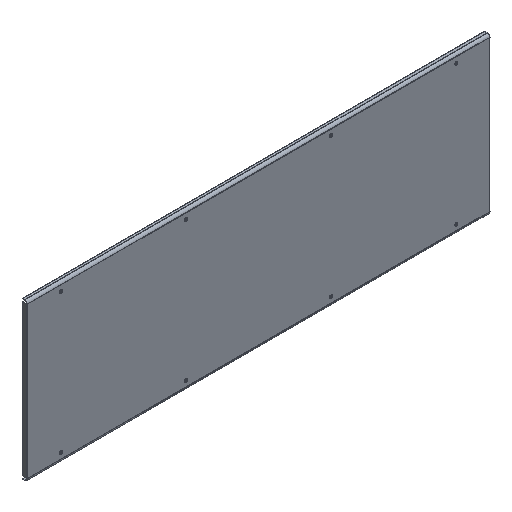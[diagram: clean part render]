
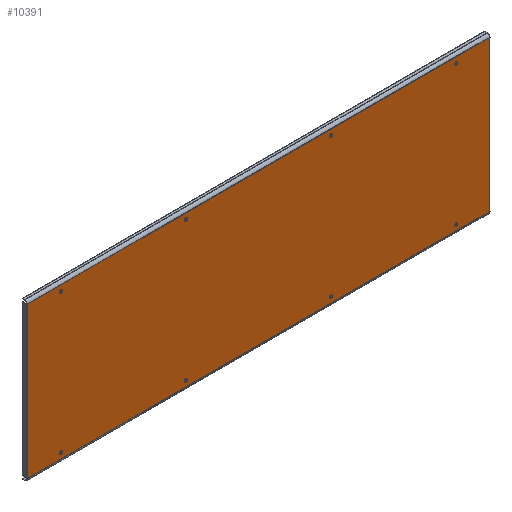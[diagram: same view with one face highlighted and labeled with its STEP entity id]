
A CAD part, isometric view. The second image highlights one B-rep face of the part: STEP entity #10391.
In plain terms, the highlighted planar face has unit normal (0, -1, 0).
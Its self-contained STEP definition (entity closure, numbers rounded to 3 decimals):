
#8466=CARTESIAN_POINT(' ',(275.,-1.5,-270.5));
#8467=VERTEX_POINT(' ',#8466);
#8481=CARTESIAN_POINT(' ',(275.,-1.5,-264.5));
#8486=DIRECTION(' ',(0.,-1.,0.));
#8491=DIRECTION(' ',(0.,0.,-1.));
#8496=AXIS2_PLACEMENT_3D(' ',#8481,#8486,#8491);
#8501=CIRCLE('',#8496,6.);
#8506=CARTESIAN_POINT(' ',(275.,-1.5,-258.5));
#8507=VERTEX_POINT(' ',#8506);
#8511=EDGE_CURVE(' ',#8467,#8507,#8501,.T.);
#9516=CARTESIAN_POINT(' ',(275.,-1.5,-264.5));
#9521=DIRECTION(' ',(0.,-1.,0.));
#9526=DIRECTION(' ',(0.,0.,1.));
#9531=AXIS2_PLACEMENT_3D(' ',#9516,#9521,#9526);
#9536=CIRCLE('',#9531,6.);
#9541=EDGE_CURVE(' ',#8507,#8467,#9536,.T.);
#9566=DIRECTION(' ',(-0.,-1.,0.));
#9571=CARTESIAN_POINT(' ',(-875.25,-1.5,-286.5));
#9576=DIRECTION(' ',(1.,-0.,0.));
#9581=AXIS2_PLACEMENT_3D(' ',#9571,#9566,#9576);
#9586=PLANE('NONE',#9581);
#9591=CARTESIAN_POINT(' ',(875.25,-1.5,-286.5));
#9596=DIRECTION(' ',(0.,0.,1.));
#9601=VECTOR(' ',#9596,1.);
#9606=LINE('',#9591,#9601);
#9611=CARTESIAN_POINT(' ',(875.25,-1.5,-286.5));
#9612=VERTEX_POINT(' ',#9611);
#9616=CARTESIAN_POINT(' ',(875.25,-1.5,286.5));
#9617=VERTEX_POINT(' ',#9616);
#9621=EDGE_CURVE(' ',#9612,#9617,#9606,.T.);
#9626=ORIENTED_EDGE(' ',*,*,#9621,.T.);
#9631=CARTESIAN_POINT(' ',(875.25,-1.5,286.5));
#9636=DIRECTION(' ',(-1.,0.,0.));
#9641=VECTOR(' ',#9636,1.);
#9646=LINE('',#9631,#9641);
#9651=CARTESIAN_POINT(' ',(-875.25,-1.5,286.5));
#9652=VERTEX_POINT(' ',#9651);
#9656=EDGE_CURVE(' ',#9617,#9652,#9646,.T.);
#9661=ORIENTED_EDGE(' ',*,*,#9656,.T.);
#9666=CARTESIAN_POINT(' ',(-875.25,-1.5,286.5));
#9671=DIRECTION(' ',(0.,0.,-1.));
#9676=VECTOR(' ',#9671,1.);
#9681=LINE('',#9666,#9676);
#9686=CARTESIAN_POINT(' ',(-875.25,-1.5,-286.5));
#9687=VERTEX_POINT(' ',#9686);
#9691=EDGE_CURVE(' ',#9652,#9687,#9681,.T.);
#9696=ORIENTED_EDGE(' ',*,*,#9691,.T.);
#9701=CARTESIAN_POINT(' ',(-875.25,-1.5,-286.5));
#9706=DIRECTION(' ',(1.,0.,0.));
#9711=VECTOR(' ',#9706,1.);
#9716=LINE('',#9701,#9711);
#9721=EDGE_CURVE(' ',#9687,#9612,#9716,.T.);
#9726=ORIENTED_EDGE(' ',*,*,#9721,.T.);
#9731=EDGE_LOOP(' ',(#9626,#9661,#9696,#9726));
#9736=FACE_OUTER_BOUND(' ',#9731,.T.);
#9741=ORIENTED_EDGE(' ',*,*,#9541,.F.);
#9746=ORIENTED_EDGE(' ',*,*,#8511,.F.);
#9751=EDGE_LOOP(' ',(#9741,#9746));
#9756=FACE_BOUND(' ',#9751,.T.);
#9761=CARTESIAN_POINT(' ',(750.,-1.5,-264.5));
#9766=DIRECTION(' ',(0.,-1.,0.));
#9771=DIRECTION(' ',(0.,0.,1.));
#9776=AXIS2_PLACEMENT_3D(' ',#9761,#9766,#9771);
#9781=CIRCLE('',#9776,6.);
#9786=CARTESIAN_POINT(' ',(750.,-1.5,-258.5));
#9787=VERTEX_POINT(' ',#9786);
#9791=CARTESIAN_POINT(' ',(750.,-1.5,-270.5));
#9792=VERTEX_POINT(' ',#9791);
#9796=EDGE_CURVE(' ',#9787,#9792,#9781,.T.);
#9801=ORIENTED_EDGE(' ',*,*,#9796,.F.);
#9806=CARTESIAN_POINT(' ',(750.,-1.5,-264.5));
#9811=DIRECTION(' ',(0.,-1.,0.));
#9816=DIRECTION(' ',(0.,0.,-1.));
#9821=AXIS2_PLACEMENT_3D(' ',#9806,#9811,#9816);
#9826=CIRCLE('',#9821,6.);
#9831=EDGE_CURVE(' ',#9792,#9787,#9826,.T.);
#9836=ORIENTED_EDGE(' ',*,*,#9831,.F.);
#9841=EDGE_LOOP(' ',(#9801,#9836));
#9846=FACE_BOUND(' ',#9841,.T.);
#9851=CARTESIAN_POINT(' ',(750.,-1.5,264.5));
#9856=DIRECTION(' ',(0.,1.,0.));
#9861=DIRECTION(' ',(0.,0.,-1.));
#9866=AXIS2_PLACEMENT_3D(' ',#9851,#9856,#9861);
#9871=CIRCLE('',#9866,6.);
#9876=CARTESIAN_POINT(' ',(750.,-1.5,258.5));
#9877=VERTEX_POINT(' ',#9876);
#9881=CARTESIAN_POINT(' ',(750.,-1.5,270.5));
#9882=VERTEX_POINT(' ',#9881);
#9886=EDGE_CURVE(' ',#9877,#9882,#9871,.T.);
#9891=ORIENTED_EDGE(' ',*,*,#9886,.T.);
#9896=CARTESIAN_POINT(' ',(750.,-1.5,264.5));
#9901=DIRECTION(' ',(0.,1.,0.));
#9906=DIRECTION(' ',(0.,0.,1.));
#9911=AXIS2_PLACEMENT_3D(' ',#9896,#9901,#9906);
#9916=CIRCLE('',#9911,6.);
#9921=EDGE_CURVE(' ',#9882,#9877,#9916,.T.);
#9926=ORIENTED_EDGE(' ',*,*,#9921,.T.);
#9931=EDGE_LOOP(' ',(#9891,#9926));
#9936=FACE_BOUND(' ',#9931,.T.);
#9941=CARTESIAN_POINT(' ',(-275.,-1.5,264.5));
#9946=DIRECTION(' ',(0.,-1.,0.));
#9951=DIRECTION(' ',(0.,0.,-1.));
#9956=AXIS2_PLACEMENT_3D(' ',#9941,#9946,#9951);
#9961=CIRCLE('',#9956,6.);
#9966=CARTESIAN_POINT(' ',(-275.,-1.5,258.5));
#9967=VERTEX_POINT(' ',#9966);
#9971=CARTESIAN_POINT(' ',(-275.,-1.5,270.5));
#9972=VERTEX_POINT(' ',#9971);
#9976=EDGE_CURVE(' ',#9967,#9972,#9961,.T.);
#9981=ORIENTED_EDGE(' ',*,*,#9976,.F.);
#9986=CARTESIAN_POINT(' ',(-275.,-1.5,264.5));
#9991=DIRECTION(' ',(0.,-1.,0.));
#9996=DIRECTION(' ',(0.,0.,1.));
#10001=AXIS2_PLACEMENT_3D(' ',#9986,#9991,#9996);
#10006=CIRCLE('',#10001,6.);
#10011=EDGE_CURVE(' ',#9972,#9967,#10006,.T.);
#10016=ORIENTED_EDGE(' ',*,*,#10011,.F.);
#10021=EDGE_LOOP(' ',(#9981,#10016));
#10026=FACE_BOUND(' ',#10021,.T.);
#10031=CARTESIAN_POINT(' ',(-750.,-1.5,264.5));
#10036=DIRECTION(' ',(0.,-1.,0.));
#10041=DIRECTION(' ',(0.,0.,-1.));
#10046=AXIS2_PLACEMENT_3D(' ',#10031,#10036,#10041);
#10051=CIRCLE('',#10046,6.);
#10056=CARTESIAN_POINT(' ',(-750.,-1.5,258.5));
#10057=VERTEX_POINT(' ',#10056);
#10061=CARTESIAN_POINT(' ',(-750.,-1.5,270.5));
#10062=VERTEX_POINT(' ',#10061);
#10066=EDGE_CURVE(' ',#10057,#10062,#10051,.T.);
#10071=ORIENTED_EDGE(' ',*,*,#10066,.F.);
#10076=CARTESIAN_POINT(' ',(-750.,-1.5,264.5));
#10081=DIRECTION(' ',(0.,-1.,0.));
#10086=DIRECTION(' ',(0.,0.,1.));
#10091=AXIS2_PLACEMENT_3D(' ',#10076,#10081,#10086);
#10096=CIRCLE('',#10091,6.);
#10101=EDGE_CURVE(' ',#10062,#10057,#10096,.T.);
#10106=ORIENTED_EDGE(' ',*,*,#10101,.F.);
#10111=EDGE_LOOP(' ',(#10071,#10106));
#10116=FACE_BOUND(' ',#10111,.T.);
#10121=CARTESIAN_POINT(' ',(-750.,-1.5,-264.5));
#10126=DIRECTION(' ',(0.,1.,0.));
#10131=DIRECTION(' ',(0.,0.,1.));
#10136=AXIS2_PLACEMENT_3D(' ',#10121,#10126,#10131);
#10141=CIRCLE('',#10136,6.);
#10146=CARTESIAN_POINT(' ',(-750.,-1.5,-258.5));
#10147=VERTEX_POINT(' ',#10146);
#10151=CARTESIAN_POINT(' ',(-750.,-1.5,-270.5));
#10152=VERTEX_POINT(' ',#10151);
#10156=EDGE_CURVE(' ',#10147,#10152,#10141,.T.);
#10161=ORIENTED_EDGE(' ',*,*,#10156,.T.);
#10166=CARTESIAN_POINT(' ',(-750.,-1.5,-264.5));
#10171=DIRECTION(' ',(0.,1.,0.));
#10176=DIRECTION(' ',(0.,0.,-1.));
#10181=AXIS2_PLACEMENT_3D(' ',#10166,#10171,#10176);
#10186=CIRCLE('',#10181,6.);
#10191=EDGE_CURVE(' ',#10152,#10147,#10186,.T.);
#10196=ORIENTED_EDGE(' ',*,*,#10191,.T.);
#10201=EDGE_LOOP(' ',(#10161,#10196));
#10206=FACE_BOUND(' ',#10201,.T.);
#10211=CARTESIAN_POINT(' ',(275.,-1.5,264.5));
#10216=DIRECTION(' ',(0.,1.,0.));
#10221=DIRECTION(' ',(0.,0.,-1.));
#10226=AXIS2_PLACEMENT_3D(' ',#10211,#10216,#10221);
#10231=CIRCLE('',#10226,6.);
#10236=CARTESIAN_POINT(' ',(275.,-1.5,258.5));
#10237=VERTEX_POINT(' ',#10236);
#10241=CARTESIAN_POINT(' ',(275.,-1.5,270.5));
#10242=VERTEX_POINT(' ',#10241);
#10246=EDGE_CURVE(' ',#10237,#10242,#10231,.T.);
#10251=ORIENTED_EDGE(' ',*,*,#10246,.T.);
#10256=CARTESIAN_POINT(' ',(275.,-1.5,264.5));
#10261=DIRECTION(' ',(0.,1.,0.));
#10266=DIRECTION(' ',(0.,0.,1.));
#10271=AXIS2_PLACEMENT_3D(' ',#10256,#10261,#10266);
#10276=CIRCLE('',#10271,6.);
#10281=EDGE_CURVE(' ',#10242,#10237,#10276,.T.);
#10286=ORIENTED_EDGE(' ',*,*,#10281,.T.);
#10291=EDGE_LOOP(' ',(#10251,#10286));
#10296=FACE_BOUND(' ',#10291,.T.);
#10301=CARTESIAN_POINT(' ',(-275.,-1.5,-264.5));
#10306=DIRECTION(' ',(0.,1.,0.));
#10311=DIRECTION(' ',(0.,0.,1.));
#10316=AXIS2_PLACEMENT_3D(' ',#10301,#10306,#10311);
#10321=CIRCLE('',#10316,6.);
#10326=CARTESIAN_POINT(' ',(-275.,-1.5,-258.5));
#10327=VERTEX_POINT(' ',#10326);
#10331=CARTESIAN_POINT(' ',(-275.,-1.5,-270.5));
#10332=VERTEX_POINT(' ',#10331);
#10336=EDGE_CURVE(' ',#10327,#10332,#10321,.T.);
#10341=ORIENTED_EDGE(' ',*,*,#10336,.T.);
#10346=CARTESIAN_POINT(' ',(-275.,-1.5,-264.5));
#10351=DIRECTION(' ',(0.,1.,0.));
#10356=DIRECTION(' ',(0.,0.,-1.));
#10361=AXIS2_PLACEMENT_3D(' ',#10346,#10351,#10356);
#10366=CIRCLE('',#10361,6.);
#10371=EDGE_CURVE(' ',#10332,#10327,#10366,.T.);
#10376=ORIENTED_EDGE(' ',*,*,#10371,.T.);
#10381=EDGE_LOOP(' ',(#10341,#10376));
#10386=FACE_BOUND(' ',#10381,.T.);
#10391=ADVANCED_FACE('NONE',(#9736,#9756,#9846,#9936,#10026,#10116,#10206,#10296,#10386),#9586,.T.);
